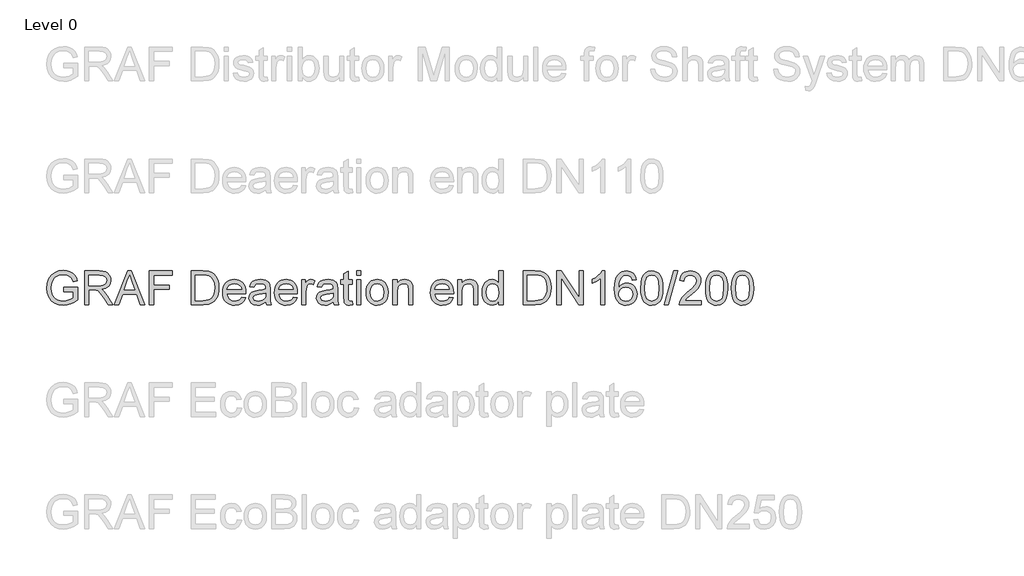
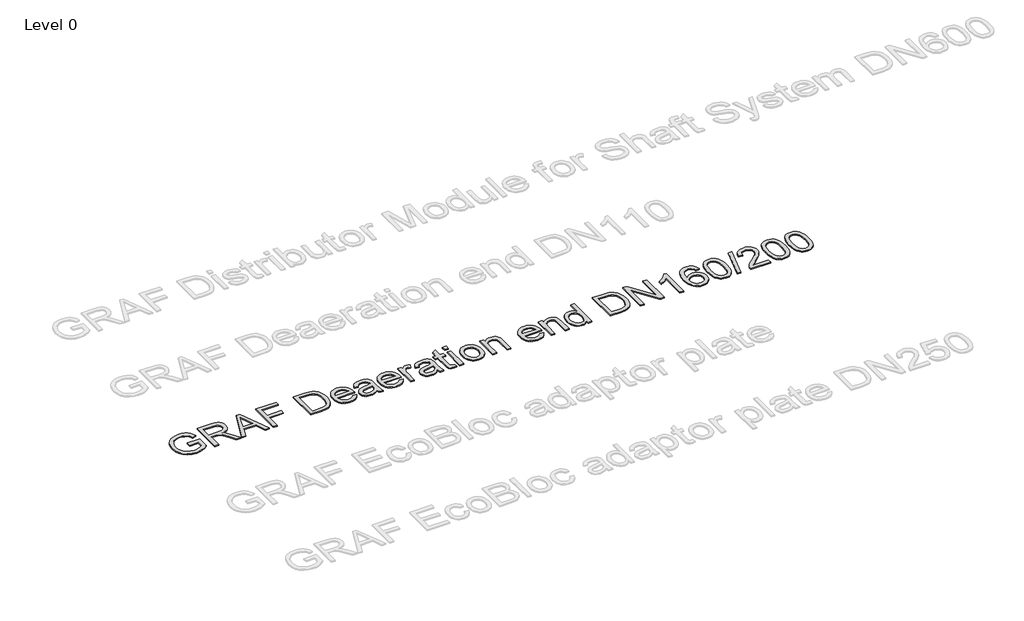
# One storey, part 5 of 25: 1 proxy.
"""IFC4 building model written with IfcOpenShell, lengths in millimetres."""

from ifc_helpers import new_model, si_unit, origin, origin_with_axes, place, context, project, spatial, polyline, outline, extrude, element, save

model = new_model("IFC4")

# Units and contexts
model_context = context("Model", 3, world=origin())
ifc_project = project(units=[si_unit("LENGTHUNIT", "METRE", prefix="MILLI")], contexts=[model_context])

# Site, building, storey
site = spatial("IfcSite", under=ifc_project)
building = spatial("IfcBuilding", under=site)
storey = spatial("IfcBuildingStorey", under=building, Name="Level 0", Elevation=0.0)

# Proxy
placement = place(None, origin())
element("IfcBuildingElementProxy", 1, Name="300mm Arial", ObjectType="300mm Arial", at=placement, inside=storey, context=model_context, shape_type="SweptSolid", body=[
    extrude(outline(polyline([(-15240.9940387, -7083.2545597), (-15240.9940387, -7045.5834434), (-15118.5629107, -7045.5834434), (-15118.5629107, -7158.2289103), (-15148.3153671, -7178.9222726), (-15179.0059225, -7193.7663111), (-15210.5610007, -7202.7058436), (-15242.9070251, -7205.6856877), (-15285.1674693, -7200.949207), (-15323.3628175, -7186.739765), (-15355.0926395, -7163.5540022), (-15377.9565055, -7131.8885595), (-15391.7796715, -7093.9047435), (-15396.3873935, -7051.7638609), (-15391.7980656, -7009.3194757), (-15378.0300819, -6969.8365406), (-15355.6536596, -6936.717964), (-15325.2390156, -6913.3666543), (-15288.1932987, -6899.5158972), (-15245.9236575, -6894.8989782), (-15214.8928112, -6897.5753197), (-15186.9889618, -6905.6043443), (-15163.4904994, -6918.4066377), (-15145.6758138, -6935.4027859), (-15132.4964413, -6957.4113262), (-15122.9039183, -6985.2507962), (-15157.6319786, -6995.0364573), (-15165.3850917, -6975.1800266), (-15174.8120678, -6960.1980323), (-15187.2832674, -6948.9040551), (-15204.169051, -6940.1116754), (-15224.3013932, -6934.4554897), (-15246.5122687, -6932.5700945), (-15272.5123287, -6934.6026425), (-15294.7415982, -6940.7002866), (-15313.1173039, -6950.0996716), (-15327.5566722, -6962.0374423), (-15346.9440533, -6991.0633317), (-15355.7732212, -7019.50061), (-15358.7162772, -7050.2187566), (-15355.175413, -7086.2436009), (-15344.5528204, -7115.8856927), (-15327.1703961, -7138.9334997), (-15303.3500369, -7155.1754898), (-15275.4737787, -7164.804801), (-15245.9236575, -7168.0145714), (-15219.831627, -7165.5957473), (-15194.3833899, -7158.3392749), (-15172.2828791, -7148.3420817), (-15156.234027, -7137.701095), (-15156.234027, -7083.2545597), (-15240.9940387, -7083.2545597)])), origin_with_axes(), (0.0, 0.0, 1.0), 10.0),
    extrude(outline(polyline([(-15057.3473467, -7200.9767982), (-15057.3473467, -6899.6078677), (-14927.4850024, -6899.6078677), (-14892.5821982, -6901.6404158), (-14867.1891434, -6907.7380598), (-14848.6294968, -6918.9952489), (-14834.2269167, -6936.5064318), (-14824.9838815, -6958.2206666), (-14821.9028698, -6982.087011), (-14827.0072325, -7011.7750881), (-14842.3203206, -7036.3863935), (-14853.9200997, -7046.4157764), (-14868.3019865, -7054.4310054), (-14905.4120827, -7064.4190016), (-14884.0013506, -7080.532233), (-14853.467145, -7119.3069952), (-14803.2144645, -7200.9767982), (-14846.9924219, -7200.9767982), (-14886.2086426, -7138.5104354), (-14914.5355562, -7097.1604991), (-14934.4379722, -7077.6259652), (-14952.3538253, -7070.4522663), (-14974.2060158, -7069.1278911), (-15019.6762304, -7069.1278911), (-15019.6762304, -7200.9767982), (-15057.3473467, -7200.9767982)]), holes=[polyline([(-15019.6762304, -7031.4567748), (-14935.3576771, -7031.4567748), (-14911.1418448, -7030.1232026), (-14892.3522719, -7026.1224859), (-14878.2072092, -7019.1879103), (-14867.9249074, -7009.0527613), (-14861.6617165, -6996.7930938), (-14859.5739861, -6983.4849626), (-14863.5563087, -6965.109257), (-14875.5032765, -6950.3020067), (-14896.058683, -6940.5347397), (-14925.8663217, -6937.278984), (-15019.6762304, -6937.278984), (-15019.6762304, -7031.4567748)])]), origin_with_axes(), (0.0, 0.0, 1.0), 10.0),
    extrude(outline(polyline([(-14791.0743586, -7200.9767982), (-14670.7769462, -6899.6078677), (-14638.6976362, -6899.6078677), (-14518.4002238, -7200.9767982), (-14558.2050557, -7200.9767982), (-14592.7123868, -7106.7990074), (-14716.835772, -7106.7990074), (-14751.2695268, -7200.9767982), (-14791.0743586, -7200.9767982)]), holes=[polyline([(-14703.003409, -7069.1278911), (-14606.4711735, -7069.1278911), (-14633.6208647, -6995.0364573), (-14654.7372912, -6937.278984), (-14673.499273, -6988.5617342), (-14703.003409, -7069.1278911)])]), origin_with_axes(), (0.0, 0.0, 1.0), 10.0),
    extrude(outline(polyline([(-14478.1539335, -7200.9767982), (-14478.1539335, -6899.6078677), (-14275.6716834, -6899.6078677), (-14275.6716834, -6937.278984), (-14440.4828172, -6937.278984), (-14440.4828172, -7026.7478853), (-14299.2161311, -7026.7478853), (-14299.2161311, -7064.4190016), (-14440.4828172, -7064.4190016), (-14440.4828172, -7200.9767982), (-14478.1539335, -7200.9767982)])), origin_with_axes(), (0.0, 0.0, 1.0), 10.0),
    extrude(outline(polyline([(-14106.15166, -7200.9767982), (-14106.15166, -6899.6078677), (-14002.1882082, -6899.6078677), (-13948.4038605, -6903.9488753), (-13924.3811662, -6912.3181907), (-13904.1108683, -6925.5067602), (-13883.2703532, -6948.4625967), (-13868.4263147, -6977.0102395), (-13859.5419645, -7010.5978657), (-13856.5805145, -7048.6736522), (-13858.5854714, -7081.0196766), (-13864.600342, -7109.484546), (-13873.7606037, -7133.7187724), (-13885.2017337, -7153.372868), (-13898.3719091, -7168.8882911), (-13912.719307, -7180.7065002), (-13929.1912233, -7189.4712888), (-13948.7349543, -7195.8264502), (-13997.185013, -7200.9767982), (-14106.15166, -7200.9767982)]), holes=[polyline([(-14068.4805437, -7163.3056819), (-14001.8203262, -7163.3056819), (-13974.2475706, -7161.9445185), (-13953.3334792, -7157.8610283), (-13937.5513416, -7151.2943347), (-13925.3744476, -7142.4835609), (-13912.2870456, -7126.1771915), (-13902.4553993, -7105.069962), (-13896.3025729, -7079.069902), (-13894.2516308, -7048.085041), (-13898.2707416, -7007.0294103), (-13910.328074, -6976.7159339), (-13928.1427596, -6955.893813), (-13949.4339301, -6943.3122488), (-13971.1021796, -6938.7873002), (-14002.8503958, -6937.278984), (-14068.4805437, -6937.278984), (-14068.4805437, -7163.3056819)])]), origin_with_axes(), (0.0, 0.0, 1.0), 10.0),
    extrude(outline(polyline([(-13654.5397227, -7135.0523446), (-13617.6043704, -7139.7612342), (-13630.9125016, -7167.5915071), (-13652.1484898, -7188.3952339), (-13680.8340883, -7201.3630743), (-13716.4910507, -7205.6856877), (-13739.865353, -7203.8209859), (-13760.6920724, -7198.2268803), (-13778.9712091, -7188.9033709), (-13794.7027629, -7175.8504579), (-13807.353305, -7159.4314246), (-13816.3894065, -7140.0095545), (-13821.8110674, -7117.5848477), (-13823.6182877, -7092.157304), (-13821.7926733, -7065.8675369), (-13816.3158301, -7042.6955698), (-13807.1877581, -7022.6414025), (-13794.4084573, -7005.7050351), (-13778.7182902, -6992.2497512), (-13760.8576193, -6982.638834), (-13740.8264447, -6976.8722838), (-13718.6247663, -6974.9501003), (-13697.1381585, -6976.8676852), (-13677.7070914, -6982.6204399), (-13660.3315649, -6992.2083644), (-13645.0115791, -7005.6314587), (-13632.5058905, -7022.5310379), (-13623.5732558, -7042.548417), (-13618.213675, -7065.6835959), (-13616.427148, -7091.9365748), (-13616.6478772, -7102.0901179), (-13785.9471714, -7102.0901179), (-13779.426463, -7130.2882728), (-13764.2789219, -7151.0184232), (-13742.4175343, -7163.7655344), (-13715.7552867, -7168.0145714), (-13695.705718, -7166.0464027), (-13678.8199344, -7160.1418967), (-13665.097936, -7149.9331713), (-13654.5397227, -7135.0523446)]), holes=[polyline([(-13785.9471714, -7064.4190016), (-13654.0982643, -7064.4190016), (-13659.19343, -7044.5165856), (-13669.1814261, -7030.2795524), (-13691.1439813, -7017.0358006), (-13718.7719191, -7012.6212166), (-13744.1649738, -7016.1436868), (-13765.1618387, -7026.7110971), (-13779.7575568, -7043.1830134), (-13785.9471714, -7064.4190016)])]), origin_with_axes(), (0.0, 0.0, 1.0), 10.0),
    extrude(outline(polyline([(-13437.4893456, -7172.7234609), (-13455.4879722, -7188.1561106), (-13474.0200277, -7198.2544714), (-13493.5085764, -7203.8278836), (-13514.3766826, -7205.6856877), (-13545.8581843, -7201.2159215), (-13569.0807353, -7187.8066228), (-13583.4005419, -7167.4443543), (-13588.1738108, -7142.1156789), (-13586.371189, -7126.4990883), (-13580.9633237, -7112.3172373), (-13572.6215995, -7100.1771315), (-13562.0174009, -7090.685776), (-13535.6402619, -7078.324941), (-13503.0459171, -7072.6595583), (-13464.5286722, -7066.6998699), (-13437.7100748, -7059.710112), (-13437.4893456, -7051.3224025), (-13440.0829136, -7034.5101954), (-13447.8636178, -7023.5105237), (-13465.2644362, -7015.3435434), (-13489.5078597, -7012.6212166), (-13511.9486614, -7014.4330355), (-13527.6204344, -7019.868492), (-13538.3074064, -7029.9208675), (-13545.793805, -7045.5834434), (-13583.4649213, -7040.8745539), (-13576.9258188, -7020.2731621), (-13567.1677489, -7004.0863544), (-13553.2802036, -6991.7071252), (-13534.3526749, -6982.5284694), (-13511.2037004, -6976.8446926), (-13484.6518174, -6974.9501003), (-13459.1851862, -6976.6239634), (-13438.9976618, -6981.6455527), (-13423.7765442, -6989.1963306), (-13413.2091339, -6998.4577598), (-13406.2009819, -7009.9080869), (-13401.6576393, -7024.0255585), (-13399.8182293, -7056.9877853), (-13399.8182293, -7103.8559515), (-13397.9052429, -7169.3021584), (-13390.4004502, -7200.9767982), (-13428.0715665, -7200.9767982), (-13437.4893456, -7172.7234609)]), holes=[polyline([(-13437.4893456, -7097.3812283), (-13498.2634512, -7108.932723), (-13530.673855, -7115.0395641), (-13545.3523466, -7124.972378), (-13550.5026945, -7139.4669286), (-13547.6975943, -7150.6689353), (-13539.2822936, -7159.8475911), (-13525.4407336, -7165.9728263), (-13506.3568551, -7168.0145714), (-13486.1233453, -7165.7612942), (-13468.2442804, -7159.0014625), (-13453.7497298, -7149.0410575), (-13443.6697631, -7137.1860602), (-13439.1999969, -7124.972378), (-13437.7100748, -7108.0498062), (-13437.4893456, -7097.3812283)])]), origin_with_axes(), (0.0, 0.0, 1.0), 10.0),
    extrude(outline(polyline([(-13193.068548, -7135.0523446), (-13156.1331957, -7139.7612342), (-13169.4413268, -7167.5915071), (-13190.677315, -7188.3952339), (-13219.3629136, -7201.3630743), (-13255.019876, -7205.6856877), (-13278.3941782, -7203.8209859), (-13299.2208977, -7198.2268803), (-13317.5000343, -7188.9033709), (-13333.2315881, -7175.8504579), (-13345.8821303, -7159.4314246), (-13354.9182318, -7140.0095545), (-13360.3398927, -7117.5848477), (-13362.147113, -7092.157304), (-13360.3214986, -7065.8675369), (-13354.8446554, -7042.6955698), (-13345.7165834, -7022.6414025), (-13332.9372826, -7005.7050351), (-13317.2471155, -6992.2497512), (-13299.3864446, -6982.638834), (-13279.35527, -6976.8722838), (-13257.1535915, -6974.9501003), (-13235.6669838, -6976.8676852), (-13216.2359166, -6982.6204399), (-13198.8603901, -6992.2083644), (-13183.5404043, -7005.6314587), (-13171.0347157, -7022.5310379), (-13162.102081, -7042.548417), (-13156.7425002, -7065.6835959), (-13154.9559733, -7091.9365748), (-13155.1767025, -7102.0901179), (-13324.4759967, -7102.0901179), (-13317.9552883, -7130.2882728), (-13302.8077471, -7151.0184232), (-13280.9463596, -7163.7655344), (-13254.284112, -7168.0145714), (-13234.2345432, -7166.0464027), (-13217.3487597, -7160.1418967), (-13203.6267612, -7149.9331713), (-13193.068548, -7135.0523446)]), holes=[polyline([(-13324.4759967, -7064.4190016), (-13192.6270896, -7064.4190016), (-13197.7222552, -7044.5165856), (-13207.7102514, -7030.2795524), (-13229.6728065, -7017.0358006), (-13257.3007443, -7012.6212166), (-13282.6937991, -7016.1436868), (-13303.6906639, -7026.7110971), (-13318.2863821, -7043.1830134), (-13324.4759967, -7064.4190016)])]), origin_with_axes(), (0.0, 0.0, 1.0), 10.0),
    extrude(outline(polyline([(-13117.284857, -7200.9767982), (-13117.284857, -6979.6589899), (-13084.3226302, -6979.6589899), (-13084.3226302, -7012.4004875), (-13072.1457362, -6993.4177765), (-13060.9253353, -6982.2341638), (-13049.6681463, -6976.7711162), (-13037.3808876, -6974.9501003), (-13018.6189059, -6977.8563681), (-12999.5626185, -6986.5751714), (-13012.1441828, -7020.3467385), (-13025.3879346, -7014.5525971), (-13038.6316864, -7012.6212166), (-13049.8796784, -7014.4790207), (-13059.9320539, -7020.052433), (-13068.053049, -7028.918389), (-13073.5068996, -7040.6538247), (-13078.0870304, -7061.6966748), (-13079.6137407, -7084.6525113), (-13079.6137407, -7200.9767982), (-13117.284857, -7200.9767982)])), origin_with_axes(), (0.0, 0.0, 1.0), 10.0),
    extrude(outline(polyline([(-12834.7514847, -7172.7234609), (-12852.7501113, -7188.1561106), (-12871.2821668, -7198.2544714), (-12890.7707155, -7203.8278836), (-12911.6388217, -7205.6856877), (-12943.1203234, -7201.2159215), (-12966.3428744, -7187.8066228), (-12980.662681, -7167.4443543), (-12985.4359499, -7142.1156789), (-12983.6333281, -7126.4990883), (-12978.2254628, -7112.3172373), (-12969.8837386, -7100.1771315), (-12959.2795401, -7090.685776), (-12932.902401, -7078.324941), (-12900.3080562, -7072.6595583), (-12861.7908113, -7066.6998699), (-12834.9722139, -7059.710112), (-12834.7514847, -7051.3224025), (-12837.3450527, -7034.5101954), (-12845.1257569, -7023.5105237), (-12862.5265753, -7015.3435434), (-12886.7699988, -7012.6212166), (-12909.2108005, -7014.4330355), (-12924.8825735, -7019.868492), (-12935.5695455, -7029.9208675), (-12943.0559441, -7045.5834434), (-12980.7270604, -7040.8745539), (-12974.1879579, -7020.2731621), (-12964.429888, -7004.0863544), (-12950.5423427, -6991.7071252), (-12931.614814, -6982.5284694), (-12908.4658395, -6976.8446926), (-12881.9139565, -6974.9501003), (-12856.4473253, -6976.6239634), (-12836.2598009, -6981.6455527), (-12821.0386833, -6989.1963306), (-12810.471273, -6998.4577598), (-12803.463121, -7009.9080869), (-12798.9197784, -7024.0255585), (-12797.0803684, -7056.9877853), (-12797.0803684, -7103.8559515), (-12795.167382, -7169.3021584), (-12787.6625893, -7200.9767982), (-12825.3337056, -7200.9767982), (-12834.7514847, -7172.7234609)]), holes=[polyline([(-12834.7514847, -7097.3812283), (-12895.5255903, -7108.932723), (-12927.9359941, -7115.0395641), (-12942.6144857, -7124.972378), (-12947.7648336, -7139.4669286), (-12944.9597334, -7150.6689353), (-12936.5444327, -7159.8475911), (-12922.7028727, -7165.9728263), (-12903.6189942, -7168.0145714), (-12883.3854844, -7165.7612942), (-12865.5064195, -7159.0014625), (-12851.0118689, -7149.0410575), (-12840.9319022, -7137.1860602), (-12836.462136, -7124.972378), (-12834.9722139, -7108.0498062), (-12834.7514847, -7097.3812283)])]), origin_with_axes(), (0.0, 0.0, 1.0), 10.0),
    extrude(outline(polyline([(-12665.2314613, -7169.5596758), (-12660.5225718, -7202.0804442), (-12688.7023326, -7205.6856877), (-12706.7837327, -7204.1221892), (-12720.2666078, -7199.4316938), (-12729.7947515, -7192.2028126), (-12736.0119572, -7183.0241568), (-12739.4332597, -7167.2604133), (-12740.5736939, -7140.276269), (-12740.5736939, -7017.3301062), (-12768.8270311, -7017.3301062), (-12768.8270311, -6979.6589899), (-12740.5736939, -6979.6589899), (-12740.5736939, -6925.8746422), (-12702.9025776, -6903.7281461), (-12702.9025776, -6979.6589899), (-12665.2314613, -6979.6589899), (-12665.2314613, -7017.3301062), (-12702.9025776, -7017.3301062), (-12702.9025776, -7139.172623), (-12700.9160148, -7158.5967923), (-12694.4780799, -7165.4761856), (-12681.6389983, -7168.0145714), (-12665.2314613, -7169.5596758)])), origin_with_axes(), (0.0, 0.0, 1.0), 10.0),
    extrude(outline(polyline([(-12627.560345, -6937.278984), (-12627.560345, -6899.6078677), (-12589.8892287, -6899.6078677), (-12589.8892287, -6937.278984), (-12627.560345, -6937.278984)])), origin_with_axes(), (0.0, 0.0, 1.0), 10.0),
    extrude(outline(polyline([(-12627.560345, -7200.9767982), (-12627.560345, -6979.6589899), (-12589.8892287, -6979.6589899), (-12589.8892287, -7200.9767982), (-12627.560345, -7200.9767982)])), origin_with_axes(), (0.0, 0.0, 1.0), 10.0),
    extrude(outline(polyline([(-12542.8003333, -7090.317894), (-12540.7631868, -7061.6552881), (-12534.6517471, -7036.9566106), (-12524.4660144, -7016.2218617), (-12510.2059885, -6999.4510412), (-12495.8493937, -6988.7318796), (-12480.0028767, -6981.0753356), (-12462.6664377, -6976.4814091), (-12443.8400766, -6974.9501003), (-12423.0570431, -6976.8148022), (-12404.265171, -6982.4089078), (-12387.4644601, -6991.7324171), (-12372.6549105, -7004.7853302), (-12360.5676877, -7021.1261885), (-12351.9339572, -7040.3135338), (-12346.7537188, -7062.3473661), (-12345.0269727, -7087.2276853), (-12348.0803933, -7125.2850777), (-12357.2406549, -7154.2557848), (-12372.2410433, -7175.9516255), (-12392.8148439, -7192.1844185), (-12417.2514054, -7202.3103704), (-12443.8400766, -7205.6856877), (-12464.9266127, -7203.8278836), (-12483.8932288, -7198.2544714), (-12500.739925, -7188.965451), (-12515.4667011, -7175.9608225), (-12527.4251652, -7159.461315), (-12535.9669253, -7139.6876578), (-12541.0919813, -7116.6398508), (-12542.8003333, -7090.317894)]), holes=[polyline([(-12505.129217, -7090.2443176), (-12500.7698154, -7124.3377815), (-12487.6916104, -7148.6271903), (-12468.0099237, -7163.1677261), (-12443.8400766, -7168.0145714), (-12419.7805941, -7163.140135), (-12400.1356956, -7148.5168257), (-12387.0574907, -7123.9055202), (-12382.698089, -7089.0670952), (-12387.0850818, -7055.9669127), (-12400.2460602, -7032.0085978), (-12419.9185499, -7017.4680619), (-12443.8400766, -7012.6212166), (-12468.0099237, -7017.4496678), (-12487.6916104, -7031.9350214), (-12500.7698154, -7056.1692478), (-12505.129217, -7090.2443176)])]), origin_with_axes(), (0.0, 0.0, 1.0), 10.0),
    extrude(outline(polyline([(-12302.6469669, -7200.9767982), (-12302.6469669, -6979.6589899), (-12264.9758506, -6979.6589899), (-12264.9758506, -7010.5610775), (-12251.8884486, -6994.981275), (-12236.1706903, -6983.8528446), (-12217.8225758, -6977.1757864), (-12196.844105, -6974.9501003), (-12178.2752613, -6976.7435251), (-12161.2699161, -6982.1237992), (-12147.0880652, -6990.4195382), (-12136.9897044, -7000.9593574), (-12125.6957272, -7028.6608716), (-12123.7091644, -7065.0811892), (-12123.7091644, -7200.9767982), (-12161.3802807, -7200.9767982), (-12161.3802807, -7070.1579607), (-12165.7212883, -7036.8278519), (-12171.7269618, -7026.9042351), (-12181.0619675, -7019.2063044), (-12193.0273293, -7014.2674886), (-12206.9240717, -7012.6212166), (-12228.9877944, -7016.3184307), (-12247.7957614, -7027.4100729), (-12255.3120504, -7036.4645685), (-12260.6808283, -7048.8391991), (-12264.9758506, -7083.5488653), (-12264.9758506, -7200.9767982), (-12302.6469669, -7200.9767982)])), origin_with_axes(), (0.0, 0.0, 1.0), 10.0),
    extrude(outline(polyline([(-11799.2372447, -7135.0523446), (-11762.3018923, -7139.7612342), (-11775.6100235, -7167.5915071), (-11796.8460117, -7188.3952339), (-11825.5316103, -7201.3630743), (-11861.1885726, -7205.6856877), (-11884.5628749, -7203.8209859), (-11905.3895944, -7198.2268803), (-11923.668731, -7188.9033709), (-11939.4002848, -7175.8504579), (-11952.0508269, -7159.4314246), (-11961.0869284, -7140.0095545), (-11966.5085893, -7117.5848477), (-11968.3158096, -7092.157304), (-11966.4901952, -7065.8675369), (-11961.013352, -7042.6955698), (-11951.88528, -7022.6414025), (-11939.1059792, -7005.7050351), (-11923.4158121, -6992.2497512), (-11905.5551413, -6982.638834), (-11885.5239666, -6976.8722838), (-11863.3222882, -6974.9501003), (-11841.8356804, -6976.8676852), (-11822.4046133, -6982.6204399), (-11805.0290868, -6992.2083644), (-11789.709101, -7005.6314587), (-11777.2034124, -7022.5310379), (-11768.2707777, -7042.548417), (-11762.9111969, -7065.6835959), (-11761.12467, -7091.9365748), (-11761.3453992, -7102.0901179), (-11930.6446933, -7102.0901179), (-11924.123985, -7130.2882728), (-11908.9764438, -7151.0184232), (-11887.1150563, -7163.7655344), (-11860.4528087, -7168.0145714), (-11840.4032399, -7166.0464027), (-11823.5174563, -7160.1418967), (-11809.7954579, -7149.9331713), (-11799.2372447, -7135.0523446)]), holes=[polyline([(-11930.6446933, -7064.4190016), (-11798.7957863, -7064.4190016), (-11803.8909519, -7044.5165856), (-11813.8789481, -7030.2795524), (-11835.8415032, -7017.0358006), (-11863.469441, -7012.6212166), (-11888.8624957, -7016.1436868), (-11909.8593606, -7026.7110971), (-11924.4550788, -7043.1830134), (-11930.6446933, -7064.4190016)])]), origin_with_axes(), (0.0, 0.0, 1.0), 10.0),
    extrude(outline(polyline([(-11723.4535537, -7200.9767982), (-11723.4535537, -6979.6589899), (-11685.7824373, -6979.6589899), (-11685.7824373, -7010.5610775), (-11672.6950354, -6994.981275), (-11656.9772771, -6983.8528446), (-11638.6291626, -6977.1757864), (-11617.6506918, -6974.9501003), (-11599.0818481, -6976.7435251), (-11582.0765029, -6982.1237992), (-11567.894652, -6990.4195382), (-11557.7962912, -7000.9593574), (-11546.502314, -7028.6608716), (-11544.5157512, -7065.0811892), (-11544.5157512, -7200.9767982), (-11582.1868675, -7200.9767982), (-11582.1868675, -7070.1579607), (-11586.527875, -7036.8278519), (-11592.5335486, -7026.9042351), (-11601.8685542, -7019.2063044), (-11613.8339161, -7014.2674886), (-11627.7306585, -7012.6212166), (-11649.7943812, -7016.3184307), (-11668.6023482, -7027.4100729), (-11676.1186372, -7036.4645685), (-11681.4874151, -7048.8391991), (-11685.7824373, -7083.5488653), (-11685.7824373, -7200.9767982), (-11723.4535537, -7200.9767982)])), origin_with_axes(), (0.0, 0.0, 1.0), 10.0),
    extrude(outline(polyline([(-11356.1601697, -7200.9767982), (-11356.1601697, -7165.4393974), (-11367.4311543, -7183.0471494), (-11381.0841748, -7195.6241151), (-11397.1192313, -7203.1702946), (-11415.5363237, -7205.6856877), (-11439.8901118, -7202.043656), (-11462.1837607, -7191.1175607), (-11481.056107, -7173.6707571), (-11495.1459874, -7150.4666002), (-11503.919973, -7122.4431893), (-11506.8446349, -7090.5386232), (-11504.1498993, -7059.0295303), (-11496.0656924, -7030.573858), (-11482.6012114, -7006.790287), (-11463.7656533, -6989.2974982), (-11440.9845607, -6978.5369498), (-11415.6834765, -6974.9501003), (-11397.2525885, -6977.5160773), (-11380.9554161, -6985.214008), (-11367.1414472, -6997.013823), (-11356.1601697, -7011.8854527), (-11356.1601697, -6899.6078677), (-11318.4890534, -6899.6078677), (-11318.4890534, -7200.9767982), (-11356.1601697, -7200.9767982)]), holes=[polyline([(-11469.1735186, -7090.3914704), (-11464.9244815, -7124.4665402), (-11452.1773704, -7148.7007667), (-11433.654512, -7163.1861202), (-11412.0782329, -7168.0145714), (-11390.511151, -7163.4068494), (-11372.4573421, -7149.5836835), (-11360.2344628, -7126.2875561), (-11356.1601697, -7093.26095), (-11360.3080392, -7057.1533322), (-11372.7516477, -7032.1189624), (-11391.2653091, -7017.4956531), (-11413.6233373, -7012.6212166), (-11435.4203455, -7017.302515), (-11453.2810164, -7031.3464102), (-11465.200393, -7055.470272), (-11469.1735186, -7090.3914704)])]), origin_with_axes(), (0.0, 0.0, 1.0), 10.0),
    extrude(outline(polyline([(-11139.5512509, -7200.9767982), (-11139.5512509, -6899.6078677), (-11035.5877991, -6899.6078677), (-10981.8034514, -6903.9488753), (-10957.7807571, -6912.3181907), (-10937.5104592, -6925.5067602), (-10916.6699441, -6948.4625967), (-10901.8259056, -6977.0102395), (-10892.9415554, -7010.5978657), (-10889.9801054, -7048.6736522), (-10891.9850623, -7081.0196766), (-10897.9999329, -7109.484546), (-10907.1601946, -7133.7187724), (-10918.6013246, -7153.372868), (-10931.7715, -7168.8882911), (-10946.1188978, -7180.7065002), (-10962.5908142, -7189.4712888), (-10982.1345452, -7195.8264502), (-11030.5846039, -7200.9767982), (-11139.5512509, -7200.9767982)]), holes=[polyline([(-11101.8801346, -7163.3056819), (-11035.2199171, -7163.3056819), (-11007.6471615, -7161.9445185), (-10986.7330701, -7157.8610283), (-10970.9509325, -7151.2943347), (-10958.7740385, -7142.4835609), (-10945.6866365, -7126.1771915), (-10935.8549902, -7105.069962), (-10929.7021638, -7079.069902), (-10927.6512217, -7048.085041), (-10931.6703325, -7007.0294103), (-10943.7276649, -6976.7159339), (-10961.5423505, -6955.893813), (-10982.833521, -6943.3122488), (-11004.5017705, -6938.7873002), (-11036.2499867, -6937.278984), (-11101.8801346, -6937.278984), (-11101.8801346, -7163.3056819)])]), origin_with_axes(), (0.0, 0.0, 1.0), 10.0),
    extrude(outline(polyline([(-10838.1823205, -7200.9767982), (-10838.1823205, -6899.6078677), (-10797.8624538, -6899.6078677), (-10640.4089599, -7138.3632826), (-10640.4089599, -6899.6078677), (-10602.7378435, -6899.6078677), (-10602.7378435, -7200.9767982), (-10643.0577102, -7200.9767982), (-10800.5112042, -6962.1478069), (-10800.5112042, -7200.9767982), (-10838.1823205, -7200.9767982)])), origin_with_axes(), (0.0, 0.0, 1.0), 10.0),
    extrude(outline(polyline([(-10409.6733725, -7200.9767982), (-10447.3444888, -7200.9767982), (-10447.3444888, -6966.1209325), (-10483.0290423, -6991.5415783), (-10522.6867214, -7010.5610775), (-10522.6867214, -6974.9501003), (-10493.0998119, -6958.8552631), (-10467.4676339, -6939.7070052), (-10447.2617153, -6919.3447368), (-10433.9535842, -6899.6078677), (-10409.6733725, -6899.6078677), (-10409.6733725, -7200.9767982)])), origin_with_axes(), (0.0, 0.0, 1.0), 10.0),
    extrude(outline(polyline([(-10127.1400002, -6979.6589899), (-10164.8111165, -6984.3678794), (-10170.8811694, -6965.6978682), (-10179.0849379, -6952.950757), (-10196.1730566, -6941.1969273), (-10216.8296306, -6937.278984), (-10234.3408136, -6939.5598524), (-10250.821927, -6946.4024575), (-10264.9761867, -6960.8142347), (-10276.5368784, -6980.6522713), (-10284.3451738, -7008.7124704), (-10287.2422445, -7047.7907354), (-10272.1314915, -7030.1599908), (-10254.0225003, -7017.7347764), (-10233.9269463, -7010.3679394), (-10212.8565051, -7007.9123271), (-10194.7567109, -7009.5907887), (-10178.0548683, -7014.6261735), (-10162.7509773, -7023.0184815), (-10148.8450379, -7034.7677128), (-10137.2889447, -7049.1748914), (-10129.0345925, -7065.5410417), (-10124.0819811, -7083.8661635), (-10122.4311106, -7104.150257), (-10125.5397135, -7131.1252043), (-10134.8655221, -7156.131983), (-10149.6359842, -7177.34038), (-10169.0785476, -7192.9201825), (-10192.3102956, -7202.4943114), (-10218.4483114, -7205.6856877), (-10240.9052079, -7203.5703662), (-10261.1870022, -7197.2244018), (-10279.2936941, -7186.6477945), (-10295.2252838, -7171.8405442), (-10308.2138175, -7152.1772515), (-10317.4913415, -7127.0325171), (-10323.057856, -7096.406341), (-10324.9133608, -7060.2987232), (-10322.8532216, -7019.8179082), (-10316.6728041, -6985.2691903), (-10306.3721082, -6956.6525696), (-10291.951134, -6933.9680461), (-10276.3207478, -6918.9354681), (-10258.197961, -6908.1979123), (-10237.5827737, -6901.7553789), (-10214.4751858, -6899.6078677), (-10181.4209886, -6904.9237626), (-10154.951879, -6920.8714471), (-10136.4106265, -6946.2001224), (-10127.1400002, -6979.6589899)]), holes=[polyline([(-10287.2422445, -7103.5616459), (-10285.0625437, -7120.2542914), (-10278.5234412, -7136.1927788), (-10268.3698981, -7149.8963831), (-10255.3468755, -7159.8843793), (-10239.6291173, -7165.9820234), (-10221.3913673, -7168.0145714), (-10196.5317415, -7163.8023226), (-10176.9880105, -7151.165576), (-10164.3236728, -7131.2999483), (-10160.102227, -7105.4010558), (-10164.2684905, -7080.54143), (-10176.7672813, -7061.5863102), (-10196.6421061, -7049.5841601), (-10222.9364717, -7045.5834434), (-10247.7593094, -7049.5841601), (-10268.5170509, -7061.5863102), (-10282.5609461, -7080.0815775), (-10287.2422445, -7103.5616459)])]), origin_with_axes(), (0.0, 0.0, 1.0), 10.0),
    extrude(outline(polyline([(-10089.4688839, -7052.7203541), (-10086.7005719, -7004.4818275), (-10078.3956358, -6966.0105679), (-10064.6368492, -6936.717964), (-10045.5069855, -6916.0154047), (-10020.8680888, -6903.709752), (-9990.5822036, -6899.6078677), (-9967.3688497, -6902.0358889), (-9946.5835169, -6909.3199524), (-9929.2010927, -6921.1749497), (-9916.1964641, -6937.3157722), (-9906.3740149, -6957.6044643), (-9898.5381284, -6981.9030701), (-9893.4061745, -7012.7591724), (-9891.6955233, -7052.7203541), (-9894.4362441, -7100.6829692), (-9902.6584067, -7139.0622584), (-9916.3344199, -7168.3824534), (-9935.4366925, -7189.1677861), (-9960.1307714, -7201.5562123), (-9990.5822036, -7205.6856877), (-10011.3307481, -7203.892263), (-10029.7248479, -7198.5119888), (-10045.7645028, -7189.5448652), (-10059.4497131, -7176.9908921), (-10072.5831003, -7154.2971715), (-10081.9640912, -7126.0208417), (-10087.5926857, -7092.1619025), (-10089.4688839, -7052.7203541)]), holes=[polyline([(-10051.7977676, -7052.6467777), (-10047.3831836, -7111.9033701), (-10041.8649537, -7132.1713688), (-10034.1394318, -7146.1991691), (-10014.4209569, -7162.5607208), (-9990.5822036, -7168.0145714), (-9966.7434503, -7162.5423267), (-9947.0249753, -7146.1255927), (-9939.2994534, -7132.0747997), (-9933.7812235, -7111.8113996), (-9929.3666396, -7052.6467777), (-9933.6340707, -6994.7237576), (-9938.9683596, -6974.5224375), (-9946.4363642, -6960.1612441), (-9966.1180509, -6942.9995491), (-9991.023662, -6937.278984), (-10014.6048979, -6942.3189674), (-10033.5508206, -6957.4389174), (-10041.5338599, -6973.0739022), (-10047.2360308, -6994.1535405), (-10051.7977676, -7052.6467777)])]), origin_with_axes(), (0.0, 0.0, 1.0), 10.0),
    extrude(outline(polyline([(-9877.5688547, -7200.9767982), (-9792.808843, -6899.6078677), (-9758.8165466, -6899.6078677), (-9843.5765583, -7200.9767982), (-9877.5688547, -7200.9767982)])), origin_with_axes(), (0.0, 0.0, 1.0), 10.0),
    extrude(outline(polyline([(-9547.946587, -7163.3056819), (-9547.946587, -7200.9767982), (-9745.7199476, -7200.9767982), (-9741.6732456, -7175.0043293), (-9732.3842253, -7154.7064402), (-9718.7909855, -7135.0155564), (-9699.1276929, -7114.4049677), (-9671.6285138, -7091.3479636), (-9630.9775533, -7055.2403458), (-9606.586977, -7028.5872952), (-9594.3916889, -7006.9558339), (-9590.3265928, -6985.9129838), (-9594.1617626, -6967.0498345), (-9605.667272, -6951.3688645), (-9623.3531989, -6940.8014541), (-9645.7296213, -6937.278984), (-9669.2280837, -6940.7186807), (-9687.4842277, -6951.0377707), (-9699.2656486, -6967.4269135), (-9703.3399417, -6989.076769), (-9741.011058, -6984.3678794), (-9731.8783875, -6947.9291678), (-9723.3320289, -6933.3932305), (-9712.1323214, -6921.3129054), (-9698.5367824, -6911.8169514), (-9682.8029294, -6905.0341272), (-9644.9202809, -6899.6078677), (-9624.7304572, -6901.1161839), (-9606.761721, -6905.6411325), (-9591.0140723, -6913.1827134), (-9577.4875112, -6923.7409266), (-9566.623496, -6936.534023), (-9558.8634852, -6950.7802533), (-9554.2074787, -6966.4796174), (-9552.6554765, -6983.6321154), (-9554.3293396, -7001.6491361), (-9559.3509288, -7019.3534572), (-9568.2628702, -7037.3612808), (-9581.6077895, -7056.2888095), (-9602.8805659, -7078.885961), (-9635.5760782, -7107.9026534), (-9678.9125773, -7144.1390299), (-9695.9087254, -7163.3056819), (-9547.946587, -7163.3056819)])), origin_with_axes(), (0.0, 0.0, 1.0), 10.0),
    extrude(outline(polyline([(-9510.2754707, -7052.7203541), (-9507.5071587, -7004.4818275), (-9499.2022226, -6966.0105679), (-9485.443436, -6936.717964), (-9466.3135722, -6916.0154047), (-9441.6746756, -6903.709752), (-9411.3887904, -6899.6078677), (-9388.1754365, -6902.0358889), (-9367.3901037, -6909.3199524), (-9350.0076795, -6921.1749497), (-9337.0030509, -6937.3157722), (-9327.1806017, -6957.6044643), (-9319.3447152, -6981.9030701), (-9314.2127613, -7012.7591724), (-9312.5021101, -7052.7203541), (-9315.2428309, -7100.6829692), (-9323.4649935, -7139.0622584), (-9337.1410067, -7168.3824534), (-9356.2432793, -7189.1677861), (-9380.9373582, -7201.5562123), (-9411.3887904, -7205.6856877), (-9432.1373349, -7203.892263), (-9450.5314347, -7198.5119888), (-9466.5710896, -7189.5448652), (-9480.2562999, -7176.9908921), (-9493.3896871, -7154.2971715), (-9502.770678, -7126.0208417), (-9508.3992725, -7092.1619025), (-9510.2754707, -7052.7203541)]), holes=[polyline([(-9472.6043544, -7052.6467777), (-9468.1897704, -7111.9033701), (-9462.6715405, -7132.1713688), (-9454.9460186, -7146.1991691), (-9435.2275437, -7162.5607208), (-9411.3887904, -7168.0145714), (-9387.5500371, -7162.5423267), (-9367.8315621, -7146.1255927), (-9360.1060402, -7132.0747997), (-9354.5878103, -7111.8113996), (-9350.1732264, -7052.6467777), (-9354.4406575, -6994.7237576), (-9359.7749464, -6974.5224375), (-9367.2429509, -6960.1612441), (-9386.9246377, -6942.9995491), (-9411.8302488, -6937.278984), (-9435.4114847, -6942.3189674), (-9454.3574074, -6957.4389174), (-9462.3404467, -6973.0739022), (-9468.0426176, -6994.1535405), (-9472.6043544, -7052.6467777)])]), origin_with_axes(), (0.0, 0.0, 1.0), 10.0),
    extrude(outline(polyline([(-9279.5398833, -7052.7203541), (-9276.7715713, -7004.4818275), (-9268.4666352, -6966.0105679), (-9254.7078486, -6936.717964), (-9235.5779849, -6916.0154047), (-9210.9390882, -6903.709752), (-9180.653203, -6899.6078677), (-9157.4398491, -6902.0358889), (-9136.6545164, -6909.3199524), (-9119.2720921, -6921.1749497), (-9106.2674636, -6937.3157722), (-9096.4450143, -6957.6044643), (-9088.6091278, -6981.9030701), (-9083.477174, -7012.7591724), (-9081.7665227, -7052.7203541), (-9084.5072436, -7100.6829692), (-9092.7294061, -7139.0622584), (-9106.4054193, -7168.3824534), (-9125.5076919, -7189.1677861), (-9150.2017708, -7201.5562123), (-9180.653203, -7205.6856877), (-9201.4017475, -7203.892263), (-9219.7958473, -7198.5119888), (-9235.8355023, -7189.5448652), (-9249.5207125, -7176.9908921), (-9262.6540997, -7154.2971715), (-9272.0350906, -7126.0208417), (-9277.6636851, -7092.1619025), (-9279.5398833, -7052.7203541)]), holes=[polyline([(-9241.868767, -7052.6467777), (-9237.454183, -7111.9033701), (-9231.9359531, -7132.1713688), (-9224.2104312, -7146.1991691), (-9204.4919563, -7162.5607208), (-9180.653203, -7168.0145714), (-9156.8144497, -7162.5423267), (-9137.0959748, -7146.1255927), (-9129.3704529, -7132.0747997), (-9123.8522229, -7111.8113996), (-9119.437639, -7052.6467777), (-9123.7050701, -6994.7237576), (-9129.0393591, -6974.5224375), (-9136.5073636, -6960.1612441), (-9156.1890503, -6942.9995491), (-9181.0946614, -6937.278984), (-9204.6758973, -6942.3189674), (-9223.62182, -6957.4389174), (-9231.6048593, -6973.0739022), (-9237.3070302, -6994.1535405), (-9241.868767, -7052.6467777)])]), origin_with_axes(), (0.0, 0.0, 1.0), 10.0),
])

save(model, "model.ifc")
